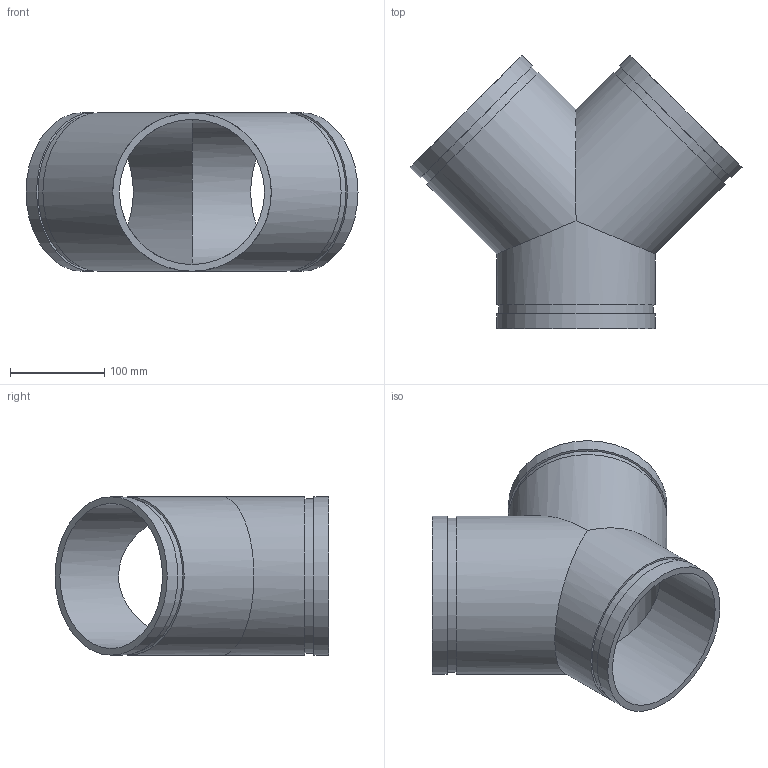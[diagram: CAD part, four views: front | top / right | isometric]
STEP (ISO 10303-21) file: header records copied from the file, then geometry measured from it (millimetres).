
FILE_DESCRIPTION(/* description */ ('This is default description.','CAx-IF Rec.Pracs.---Representation and Presentation of Product Manufacturing Information (PMI)---4.0---2014-10-13'),/* implementation_level */ '2;1');
FILE_NAME(/* name */ 'C:\Users\kkamble\AppData\Roaming\Autodesk\ApplicationPlugins\Back Up\Victaulic_IPS-Tee- Wye_ No 33 SWS (OGS)\Victaulic_IPS-Tee- Wye_ No 33 SWS (OGS)_6.stp',/* time_stamp */ '2020-09-16T22:08:22+06:00',/* author */ ('cgray'),/* organization */ ('Victaulic'),/* preprocessor_version */ 'ST-DEVELOPER v17.2',/* originating_system */ 'Autodesk Inventor 2019',/* authorisation */ '');
FILE_SCHEMA (('AP242_MANAGED_MODEL_BASED_3D_ENGINEERING_MIM_LF { 1 0 10303 442 1 1 4 }'));
Length unit declared in the file: inch
Products named in the file (1): 33 SWS-06.0
Bounding box: 352.48 x 290.54 x 168.28 mm (x, y, z)
Volume: 1230416.2 mm3; surface area: 372117.2 mm2
Topology: 1 solids, 1 shells, 21 faces, 48 edges, 34 vertices
Faces by surface type: cylinder 12, plane 9
Full cylindrical faces by diameter (mm): 154.051 x3, 163.957 x3, 168.275 x6
Entity records: 787 total; most frequent: DIRECTION 154, CARTESIAN_POINT 121, ORIENTED_EDGE 96, AXIS2_PLACEMENT_3D 71, EDGE_CURVE 48, VERTEX_POINT 34, EDGE_LOOP 30, CIRCLE 26
